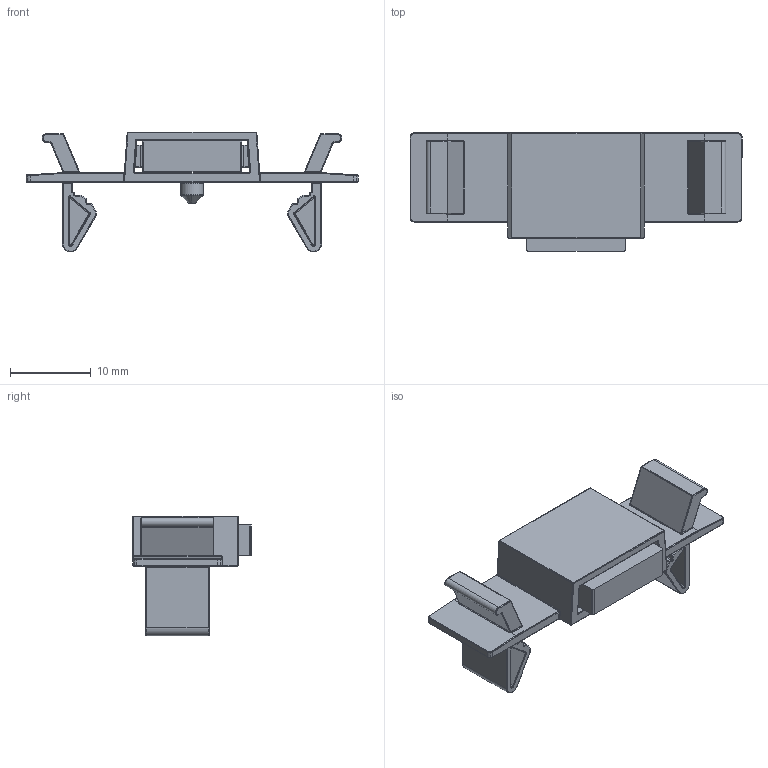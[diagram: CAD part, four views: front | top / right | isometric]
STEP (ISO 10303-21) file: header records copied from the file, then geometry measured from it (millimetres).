
FILE_DESCRIPTION((''),'2;1');
FILE_NAME('6470.30.stp','2023-10-12T13:07:21',(''),(''),'Mechanical Desktop 2006','Mechanical Desktop 2006',', , ');
FILE_SCHEMA(('CONFIG_CONTROL_DESIGN'));
Length unit declared in the file: millimetre
Products named in the file (6): 6470.30; 1AA; 2A; 1A; 1; 2
Assembly tree (2 placements, depth 2):
  6470.30
    1AA
    2A
  1A
  1
  2
Bounding box: 41 x 14.6 x 14.8 mm (x, y, z)
Volume: 1889.5 mm3; surface area: 3105.1 mm2
Topology: 2 solids, 2 shells, 791 faces, 1992 edges, 1156 vertices
Faces by surface type: cylinder 448, torus 120, bspline 116, plane 59, sphere 44, cone 4
Entity records: 27116 total; most frequent: CARTESIAN_POINT 7848, DIRECTION 4346, ORIENTED_EDGE 3872, EDGE_CURVE 1936, AXIS2_PLACEMENT_3D 1824, VERTEX_POINT 1156, CIRCLE 1096, EDGE_LOOP 802
